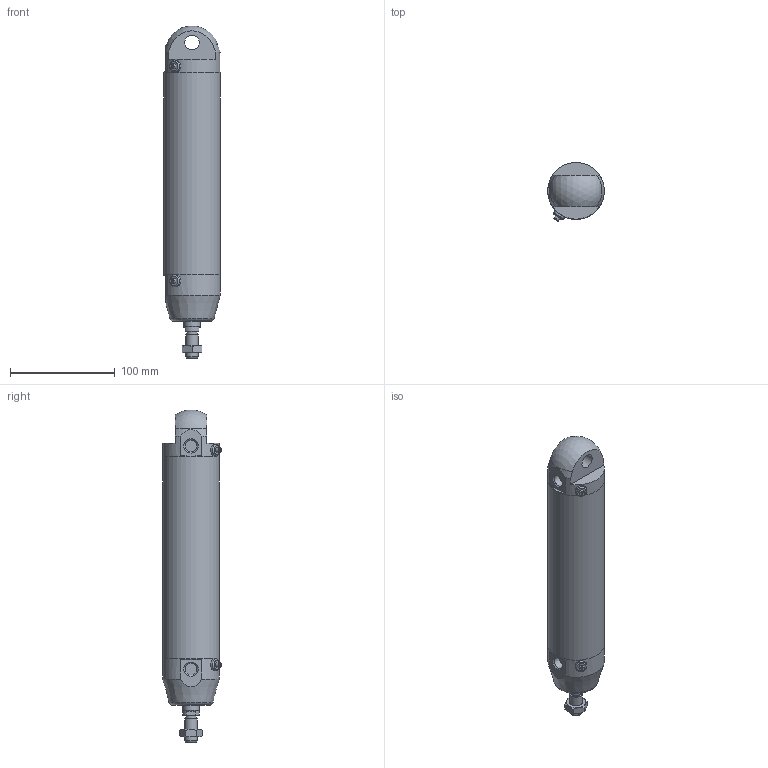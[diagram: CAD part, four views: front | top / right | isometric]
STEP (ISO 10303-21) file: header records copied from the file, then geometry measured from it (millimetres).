
FILE_DESCRIPTION(/* description */ (''),/* implementation_level */ '2;1');
FILE_NAME(/* name */ 'I:\Area Tecnica\Documenti\A-Manieri\_Inventor\12X\12X#A_###_####_#_#\12XBA_050_0150_#_#.stp',/* time_stamp */ '2015-04-24T09:18:48+02:00',/* author */ ('maniean1'),/* organization */ ('Pneumax S.p.A.'),/* preprocessor_version */ 'ST-DEVELOPER v15.2',/* originating_system */ 'Autodesk Inventor 2014',/* authorisation */ '');
FILE_SCHEMA (('AUTOMOTIVE_DESIGN { 1 0 10303 214 3 1 1 }'));
Length unit declared in the file: millimetre
Products named in the file (6): C1250_619-0150; 12X50_614; 12X50_607; S12X50_0150; 12X_50_11; 12XBA_050_0150_#_#
Bounding box: 54 x 55.88 x 316.83 mm (x, y, z)
Volume: 334026.4 mm3; surface area: 110547.3 mm2
Topology: 5 solids, 5 shells, 77 faces, 168 edges, 109 vertices
Faces by surface type: plane 43, cylinder 18, cone 12, torus 3, sphere 1
Full cylindrical faces by diameter (mm): 5 x2, 10.2 x1, 11 x2, 11.4 x2, 12 x2, 14 x2, 15.6 x1, 16 x1, 50 x2, 54 x3
Entity records: 2072 total; most frequent: CARTESIAN_POINT 428, DIRECTION 346, ORIENTED_EDGE 260, AXIS2_PLACEMENT_3D 152, EDGE_CURVE 130, EDGE_LOOP 122, VERTEX_POINT 100, ADVANCED_FACE 77
